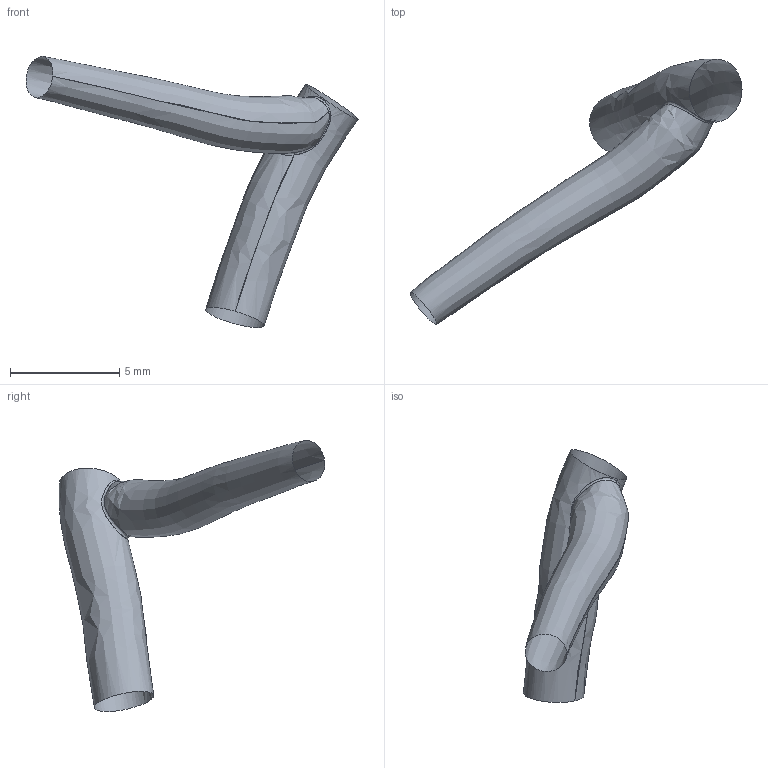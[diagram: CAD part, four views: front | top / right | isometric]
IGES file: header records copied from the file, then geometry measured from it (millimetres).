
Global section: file name: C:\Documents and Settings\Administrator\Desktop\FDA-Pig\Domestic LCA\Pig_000003\lxc.ed.igs; native system: Rhinoceros ( May 19 2006 ); preprocessor: Trout Lake IGES 012 May 19 2006; date: 111205.182846; units: centimetre
Bounding box: 15.17 x 12.13 x 12.39 mm (x, y, z)
Surface area: 202.5 mm2 (no closed solid volume)
Topology: 0 solids, 0 shells, 5 faces, 50 edges, 49 vertices
Faces by surface type: bspline 5
